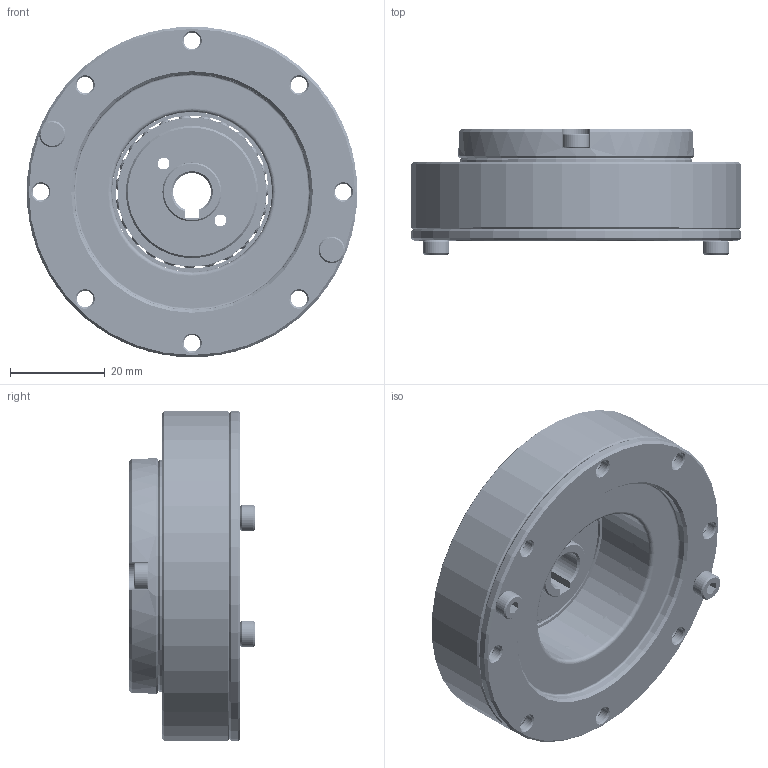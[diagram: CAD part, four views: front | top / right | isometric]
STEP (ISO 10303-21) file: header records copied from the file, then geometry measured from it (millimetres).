
FILE_DESCRIPTION(/* description */ (''),/* implementation_level */ '2;1');
FILE_NAME(/* name */ 'XBF14成品图.prt.stp',/* time_stamp */ '2022-07-23T09:24:09+08:00',/* author */ (''),/* organization */ (''),/* preprocessor_version */ 'ST-DEVELOPER v16',/* originating_system */ 'SIEMENS PLM Software NX 10.0',/* authorisation */ '');
FILE_SCHEMA (('CONFIG_CONTROL_DESIGN'));
Products named in the file (12): 14柔性轴承保持架（日标）; XBS14-3-1凸轮; G49585; M3X10; M3X 8; M2X6; XBK14-4-1-1销子; XBF14-1钢轮; XBK14-4-1内芯; XBK14-4-2外圈; 14柔性轴承（日标）_MODEL; XBF14成品图
Assembly tree (15 placements, depth 3):
  XBF14成品图
    XBK14-4-2外圈
    XBK14-4-1内芯
    XBF14-1钢轮
    XBK14-4-1-1销子
    M2X6
    M3X 8  x2
    M3X10  x4
    G49585
    14柔性轴承（日标）_MODEL
      14柔性轴承保持架（日标）
    XBS14-3-1凸轮
Bounding box: 70 x 26.5 x 70 mm (x, y, z)
Volume: 46967.5 mm3; surface area: 46936.2 mm2
Topology: 39 solids, 40 shells, 818 faces, 2120 edges, 1389 vertices
Faces by surface type: plane 327, cylinder 213, cone 131, bspline 81, extrusion 37, sphere 23, torus 6
Full cylindrical faces by diameter (mm): 2.3 x1, 2.5 x24, 2.6 x2, 3.5 x30, 4 x2, 5.6 x6, 12.5 x1, 23 x1, 25 x1, 25.07 x1, 26.67 x2, 27.5 x1, 28 x1, 31.5 x1, 32.396 x2, 33.896 x2, 35 x1, 36 x1, 36.896 x1, 38 x2, 38.3 x1, 40 x1, 45 x1, 49 x2, 49.991 x1, 50 x1, 50.7 x2, 52 x1, 52.8 x1, 55 x1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
Entity records: 107313 total; most frequent: CARTESIAN_POINT 90524, ORIENTED_EDGE 3036, DIRECTION 2867, EDGE_CURVE 1518, AXIS2_PLACEMENT_3D 1160, VERTEX_POINT 1120, EDGE_LOOP 1021, ADVANCED_FACE 713
